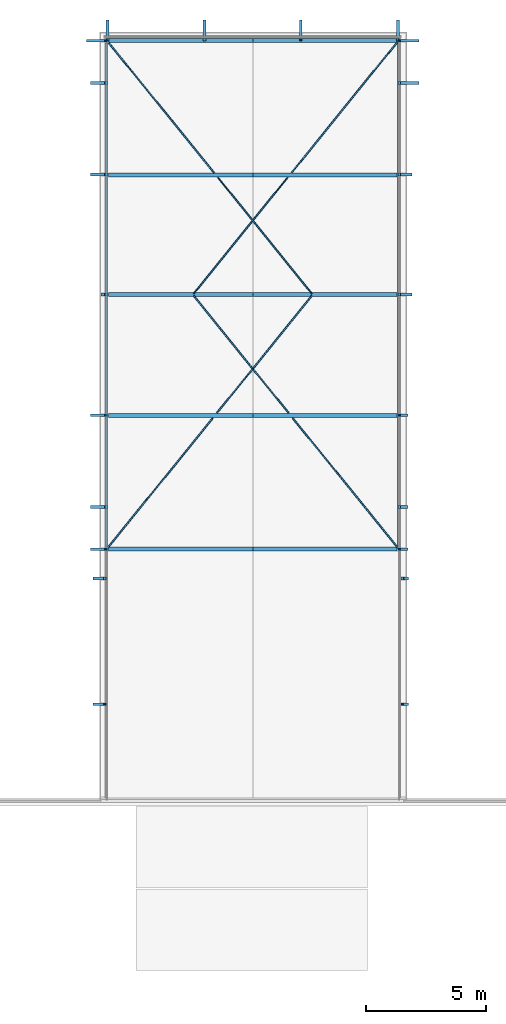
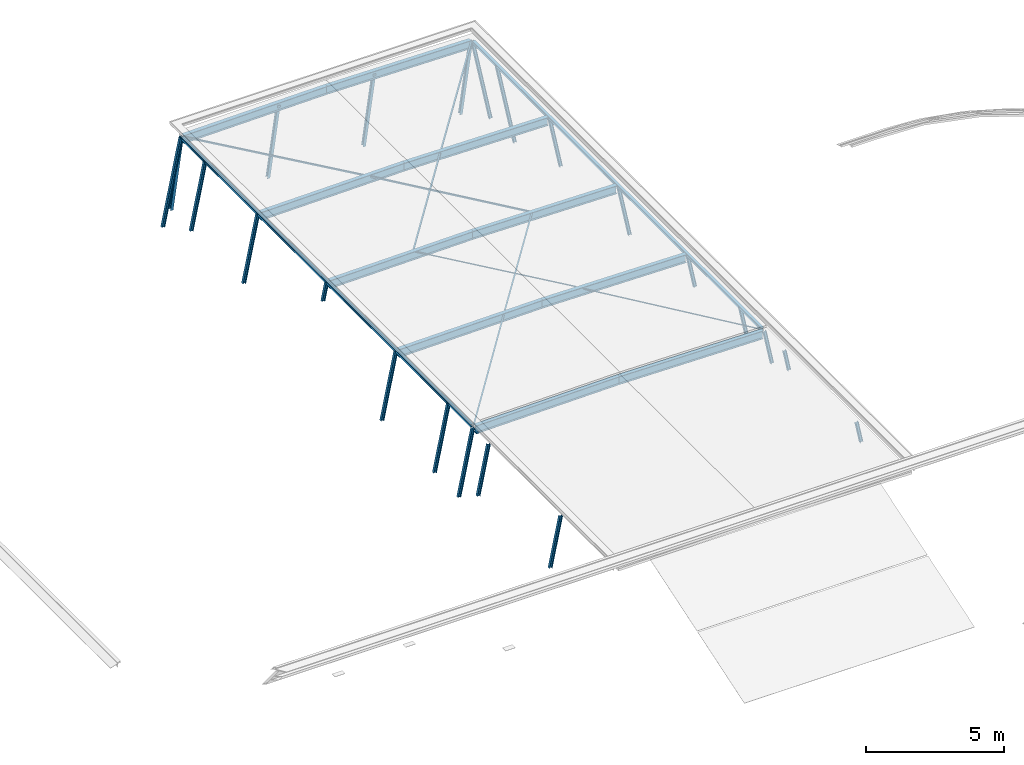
# One storey, part 1 of 5: 42 beams.
"""IFC2X3 building model written with IfcOpenShell, lengths in millimetres."""

from ifc_helpers import new_model, entity, si_unit, converted_unit, derived_unit, direction, frame, frame_2d, origin, place, context, subcontext, project, spatial, polyline, i_section, outline, extrude, material, type_object, element, save


model = new_model("IFC2X3")

# Units and contexts
model_context = context("Model", 3, precision=0.01, world=origin(), true_north=direction((6.12303176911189e-17, 1.0)))
body_context = subcontext(model_context, "Body", "Model", "MODEL_VIEW")
ifc_project = project(units=[si_unit("LENGTHUNIT", "METRE", prefix="MILLI"), si_unit("AREAUNIT", "SQUARE_METRE"), si_unit("VOLUMEUNIT", "CUBIC_METRE"), converted_unit("PLANEANGLEUNIT", "DEGREE", entity("IfcRatioMeasure", 0.0174532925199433), si_unit("PLANEANGLEUNIT", "RADIAN"), dimensions=[0, 0, 0, 0, 0, 0, 0]), si_unit("MASSUNIT", "GRAM", prefix="KILO"), derived_unit("MASSDENSITYUNIT", [(si_unit("MASSUNIT", "GRAM", prefix="KILO"), 1), (si_unit("LENGTHUNIT", "METRE"), -3)]), derived_unit("MOMENTOFINERTIAUNIT", [(si_unit("LENGTHUNIT", "METRE"), 4)]), si_unit("TIMEUNIT", "SECOND"), si_unit("FREQUENCYUNIT", "HERTZ"), si_unit("THERMODYNAMICTEMPERATUREUNIT", "DEGREE_CELSIUS"), derived_unit("THERMALTRANSMITTANCEUNIT", [(si_unit("MASSUNIT", "GRAM", prefix="KILO"), 1), (si_unit("THERMODYNAMICTEMPERATUREUNIT", "KELVIN"), -1), (si_unit("TIMEUNIT", "SECOND"), -3)]), derived_unit("VOLUMETRICFLOWRATEUNIT", [(si_unit("LENGTHUNIT", "METRE"), 3), (si_unit("TIMEUNIT", "SECOND"), -1)]), si_unit("ELECTRICCURRENTUNIT", "AMPERE"), si_unit("ELECTRICVOLTAGEUNIT", "VOLT"), si_unit("POWERUNIT", "WATT"), si_unit("FORCEUNIT", "NEWTON", prefix="KILO"), si_unit("ILLUMINANCEUNIT", "LUX"), si_unit("LUMINOUSFLUXUNIT", "LUMEN"), si_unit("LUMINOUSINTENSITYUNIT", "CANDELA"), derived_unit("USERDEFINED", [(si_unit("MASSUNIT", "GRAM", prefix="KILO"), -1), (si_unit("LENGTHUNIT", "METRE"), -2), (si_unit("TIMEUNIT", "SECOND"), 3), (si_unit("LUMINOUSFLUXUNIT", "LUMEN"), 1)]), derived_unit("LINEARVELOCITYUNIT", [(si_unit("LENGTHUNIT", "METRE"), 1), (si_unit("TIMEUNIT", "SECOND"), -1)]), si_unit("PRESSUREUNIT", "PASCAL"), derived_unit("USERDEFINED", [(si_unit("LENGTHUNIT", "METRE"), -2), (si_unit("MASSUNIT", "GRAM", prefix="KILO"), 1), (si_unit("TIMEUNIT", "SECOND"), -2)]), derived_unit("LINEARFORCEUNIT", [(si_unit("MASSUNIT", "GRAM", prefix="KILO"), 1), (si_unit("LENGTHUNIT", "METRE"), 1), (si_unit("TIMEUNIT", "SECOND"), -2), (si_unit("LENGTHUNIT", "METRE"), -1)]), derived_unit("PLANARFORCEUNIT", [(si_unit("MASSUNIT", "GRAM", prefix="KILO"), 1), (si_unit("LENGTHUNIT", "METRE"), 1), (si_unit("TIMEUNIT", "SECOND"), -2), (si_unit("LENGTHUNIT", "METRE"), -2)])], contexts=[model_context])

# Site, building, storey
site_placement = place(None, origin())
site = spatial("IfcSite", under=ifc_project, at=site_placement, Name="Default", CompositionType="ELEMENT")
building_placement = place(site_placement, origin())
building = spatial("IfcBuilding", under=site, at=building_placement, Name="-", CompositionType="ELEMENT")
storey_placement = place(building_placement, frame((0.0, 0.0, 6070.0)))
storey = spatial("IfcBuildingStorey", under=building, at=storey_placement, Name="02 tweede verdieping", CompositionType="ELEMENT", Elevation=6070.00000000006)

# Beams
ifc_material = material(Name="NLRS_h3_staal_verzinkt")
beam_type_1 = type_object("IfcBeamType", Name="NLRS_28_SF_UN_HE-profiel_gen_aly:HEA120", PredefinedType="NOTDEFINED")
beam_1_placement = place(storey_placement, frame((40857.0, 41867.5320880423, 2.52593752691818), z_axis=(0.0, 0.0, 1.0), x_axis=(0.0, -1.0, 0.0)))
element("IfcBeam", 1, at=beam_1_placement, inside=storey, type_object=beam_type_1, material=ifc_material, Name="NLRS_28_SF_UN_HE-profiel_gen_aly:HEA120", ObjectType="NLRS_28_SF_UN_HE-profiel_gen_aly:HEA120", context=body_context, shape_type="SweptSolid", body=[
    extrude(i_section(OverallWidth=120.000000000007, OverallDepth=120.0, WebThickness=4.99999999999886, FlangeThickness=8.00000000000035, at=frame_2d((5.43565192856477e-13, 4.33075797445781e-12), x_axis=(0.0, 1.0))), frame((-0.0611901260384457, 0.0, -60.0), z_axis=(1.0, 0.0, 0.0), x_axis=(0.0, 0.0, -1.0)), (0.0, 0.0, 1.0), 20934.7730277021),
])
beam_2_placement = place(storey_placement, frame((28706.9917876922, 41750.3377657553, -1.47406247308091), z_axis=(0.0, 0.0, 1.0), x_axis=(0.0, -1.0, 0.0)))
element("IfcBeam", 2, at=beam_2_placement, inside=storey, type_object=beam_type_1, material=ifc_material, Name="NLRS_28_SF_UN_HE-profiel_gen_aly:HEA120", ObjectType="NLRS_28_SF_UN_HE-profiel_gen_aly:HEA120", context=body_context, shape_type="SweptSolid", body=[
    extrude(i_section(OverallWidth=119.999999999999, OverallDepth=120.0, WebThickness=4.99999999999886, FlangeThickness=8.00000000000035, at=frame_2d((5.43565192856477e-13, 8.66151594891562e-12), x_axis=(0.0, 1.0))), frame((-116.534708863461, 0.0, -60.0), z_axis=(1.0, 0.0, 0.0), x_axis=(0.0, 0.0, -1.0)), (0.0, 0.0, 1.0), 20934.0522241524),
])
beam_3_placement = place(storey_placement, frame((41513.0668104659, 40211.8575638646, -2930.0), z_axis=(0.979607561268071, 0.0, 0.200920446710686), x_axis=(-0.200920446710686, 0.0, 0.979607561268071)))
element("IfcBeam", 3, at=beam_3_placement, inside=storey, type_object=beam_type_1, material=ifc_material, Name="NLRS_28_SF_UN_HE-profiel_gen_aly:HEA120", ObjectType="NLRS_28_SF_UN_HE-profiel_gen_aly:HEA120", context=body_context, shape_type="SweptSolid", body=[
    extrude(i_section(OverallWidth=119.999999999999, OverallDepth=119.999999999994, WebThickness=4.99999999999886, FlangeThickness=7.99999999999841, at=frame_2d((-4.43378667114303e-12, 4.33075797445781e-12), x_axis=(0.0, 1.0))), frame((-840.365064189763, 0.0, -60.0), z_axis=(1.0, 0.0, 0.0), x_axis=(0.0, 0.0, -1.0)), (0.0, 0.0, 1.0), 3757.85989885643),
])
beam_4_placement = place(storey_placement, frame((40821.9672262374, 42659.0888483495, -2930.0), z_axis=(1.0, 0.0, 0.0), x_axis=(0.0, -0.200920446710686, 0.979607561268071)))
element("IfcBeam", 4, at=beam_4_placement, inside=storey, type_object=beam_type_1, material=ifc_material, Name="NLRS_28_SF_UN_HE-profiel_gen_aly:HEA120", ObjectType="NLRS_28_SF_UN_HE-profiel_gen_aly:HEA120", context=body_context, shape_type="SweptSolid", body=[
    extrude(i_section(OverallWidth=119.999999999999, OverallDepth=119.999999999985, WebThickness=4.99999999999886, FlangeThickness=7.99999999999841, at=frame_2d((-4.33075797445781e-12, -8.84270434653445e-12), x_axis=(1.0, 0.0))), frame((-840.365064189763, 60.0, 0.0), z_axis=(1.0, 0.0, 0.0), x_axis=(0.0, 0.0, -1.0)), (0.0, 0.0, 1.0), 3757.85989885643),
])
beam_5_placement = place(storey_placement, frame((36777.0, 42659.0888483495, -2930.0), z_axis=(1.0, 0.0, 0.0), x_axis=(0.0, -0.200920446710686, 0.979607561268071)))
element("IfcBeam", 5, at=beam_5_placement, inside=storey, type_object=beam_type_1, material=ifc_material, Name="NLRS_28_SF_UN_HE-profiel_gen_aly:HEA120", ObjectType="NLRS_28_SF_UN_HE-profiel_gen_aly:HEA120", context=body_context, shape_type="SweptSolid", body=[
    extrude(i_section(OverallWidth=119.999999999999, OverallDepth=120.000000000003, WebThickness=4.99999999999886, FlangeThickness=7.99999999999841, at=frame_2d((-6.49436060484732e-12, -8.81428263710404e-12), x_axis=(1.0, 0.0))), frame((-840.365064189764, 60.0, 0.0), z_axis=(1.0, 0.0, 0.0), x_axis=(0.0, 0.0, -1.0)), (0.0, 0.0, 1.0), 3757.85989885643),
])
beam_6_placement = place(storey_placement, frame((32783.0, 42659.0888483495, -2930.0), z_axis=(1.0, 0.0, 0.0), x_axis=(0.0, -0.200920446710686, 0.979607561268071)))
element("IfcBeam", 6, at=beam_6_placement, inside=storey, type_object=beam_type_1, material=ifc_material, Name="NLRS_28_SF_UN_HE-profiel_gen_aly:HEA120", ObjectType="NLRS_28_SF_UN_HE-profiel_gen_aly:HEA120", context=body_context, shape_type="SweptSolid", body=[
    extrude(i_section(OverallWidth=119.999999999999, OverallDepth=120.000000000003, WebThickness=4.99999999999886, FlangeThickness=7.99999999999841, at=frame_2d((2.16715534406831e-12, 0.0), x_axis=(1.0, 0.0))), frame((-840.365064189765, 60.0, 0.0), z_axis=(1.0, 0.0, 0.0), x_axis=(0.0, 0.0, -1.0)), (0.0, 0.0, 1.0), 3757.85989885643),
])
beam_7_placement = place(storey_placement, frame((28738.0, 42659.0888483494, -2930.0), z_axis=(1.0, 0.0, 0.0), x_axis=(0.0, -0.200920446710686, 0.979607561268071)))
element("IfcBeam", 7, at=beam_7_placement, inside=storey, type_object=beam_type_1, material=ifc_material, Name="NLRS_28_SF_UN_HE-profiel_gen_aly:HEA120", ObjectType="NLRS_28_SF_UN_HE-profiel_gen_aly:HEA120", context=body_context, shape_type="SweptSolid", body=[
    extrude(i_section(OverallWidth=119.999999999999, OverallDepth=119.999999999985, WebThickness=4.99999999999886, FlangeThickness=7.99999999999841, at=frame_2d((2.16715534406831e-12, 2.48689957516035e-14), x_axis=(1.0, 0.0))), frame((-840.365064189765, 60.0, 0.0), z_axis=(1.0, 0.0, 0.0), x_axis=(0.0, 0.0, -1.0)), (0.0, 0.0, 1.0), 3757.85989885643),
])
beam_8_placement = place(storey_placement, frame((41513.0668104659, 41965.3202504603, -2930.0), z_axis=(0.979607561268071, 0.0, 0.200920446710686), x_axis=(-0.200920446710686, 0.0, 0.979607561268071)))
element("IfcBeam", 8, at=beam_8_placement, inside=storey, type_object=beam_type_1, material=ifc_material, Name="NLRS_28_SF_UN_HE-profiel_gen_aly:HEA120", ObjectType="NLRS_28_SF_UN_HE-profiel_gen_aly:HEA120", context=body_context, shape_type="SweptSolid", body=[
    extrude(i_section(OverallWidth=119.999999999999, OverallDepth=119.999999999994, WebThickness=4.99999999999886, FlangeThickness=7.99999999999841, at=frame_2d((-4.43378667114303e-12, -4.33075797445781e-12), x_axis=(0.0, 1.0))), frame((-840.365064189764, 0.0, -60.0), z_axis=(1.0, 0.0, 0.0), x_axis=(0.0, 0.0, -1.0)), (0.0, 0.0, 1.0), 3757.85989885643),
])
beam_9_placement = place(storey_placement, frame((28040.9197293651, 36404.8202504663, -2930.0), z_axis=(0.979607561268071, 0.0, -0.200920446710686), x_axis=(0.200920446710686, 0.0, 0.979607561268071)))
element("IfcBeam", 9, at=beam_9_placement, inside=storey, type_object=beam_type_1, material=ifc_material, Name="NLRS_28_SF_UN_HE-profiel_gen_aly:HEA120", ObjectType="NLRS_28_SF_UN_HE-profiel_gen_aly:HEA120", context=body_context, shape_type="SweptSolid", body=[
    extrude(outline(polyline([(52.0, -60.0), (60.0, -60.0), (60.0, 60.0), (52.0, 60.0), (52.0, 2.49999999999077), (-52.0, 2.49999999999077), (-52.0, 60.0), (-60.0, 60.0), (-60.0, -60.0), (-52.0, -60.0), (-52.0, -2.50000000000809), (52.0, -2.50000000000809), (52.0, -60.0)])), frame((0.0, 0.0, 60.0), z_axis=(1.0, 0.0, 0.0), x_axis=(0.0, 0.0, -1.0)), (0.0, 0.0, 1.0), 2917.49483466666),
])
beam_10_placement = place(storey_placement, frame((28040.9197293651, 40211.8575638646, -2930.0), z_axis=(0.979607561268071, 0.0, -0.200920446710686), x_axis=(0.200920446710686, 0.0, 0.979607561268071)))
element("IfcBeam", 10, at=beam_10_placement, inside=storey, type_object=beam_type_1, material=ifc_material, Name="NLRS_28_SF_UN_HE-profiel_gen_aly:HEA120", ObjectType="NLRS_28_SF_UN_HE-profiel_gen_aly:HEA120", context=body_context, shape_type="SweptSolid", body=[
    extrude(outline(polyline([(52.0, -60.0), (60.0, -60.0), (60.0, 60.0), (52.0, 60.0), (52.0, 2.49999999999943), (-52.0, 2.49999999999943), (-52.0, 60.0), (-60.0, 60.0), (-60.0, -60.0), (-52.0, -60.0), (-52.0, -2.49999999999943), (52.0, -2.49999999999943), (52.0, -60.0)])), frame((0.0, 0.0, 60.0), z_axis=(1.0, 0.0, 0.0), x_axis=(0.0, 0.0, -1.0)), (0.0, 0.0, 1.0), 2917.49483466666),
])
beam_11_placement = place(storey_placement, frame((28040.9197293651, 31414.8202504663, -2930.0), z_axis=(0.979607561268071, 0.0, -0.200920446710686), x_axis=(0.200920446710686, 0.0, 0.979607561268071)))
element("IfcBeam", 11, at=beam_11_placement, inside=storey, type_object=beam_type_1, material=ifc_material, Name="NLRS_28_SF_UN_HE-profiel_gen_aly:HEA120", ObjectType="NLRS_28_SF_UN_HE-profiel_gen_aly:HEA120", context=body_context, shape_type="SweptSolid", body=[
    extrude(outline(polyline([(52.0, -60.0), (60.0, -60.0), (60.0, 60.0), (52.0, 60.0), (52.0, 2.49999999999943), (-52.0, 2.49999999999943), (-52.0, 60.0), (-60.0, 60.0), (-60.0, -60.0), (-52.0, -60.0), (-52.0, -2.49999999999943), (52.0, -2.49999999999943), (52.0, -60.0)])), frame((2137.18038813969, 0.0, 60.0), z_axis=(1.0, 0.0, 0.0), x_axis=(0.0, 0.0, -1.0)), (0.0, 0.0, 1.0), 780.314446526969),
])
beam_12_placement = place(storey_placement, frame((28040.9197293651, 26406.8202504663, -2930.0), z_axis=(0.979607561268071, 0.0, -0.200920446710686), x_axis=(0.200920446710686, 0.0, 0.979607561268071)))
element("IfcBeam", 12, at=beam_12_placement, inside=storey, type_object=beam_type_1, material=ifc_material, Name="NLRS_28_SF_UN_HE-profiel_gen_aly:HEA120", ObjectType="NLRS_28_SF_UN_HE-profiel_gen_aly:HEA120", context=body_context, shape_type="SweptSolid", body=[
    extrude(outline(polyline([(52.0, -60.0), (60.0, -60.0), (60.0, 60.0), (52.0, 60.0), (52.0, 2.49999999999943), (-52.0, 2.49999999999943), (-52.0, 60.0), (-60.0, 60.0), (-60.0, -60.0), (-52.0, -60.0), (-52.0, -2.49999999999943), (52.0, -2.49999999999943), (52.0, -60.0)])), frame((0.0, 0.0, 60.0), z_axis=(1.0, 0.0, 0.0), x_axis=(0.0, 0.0, -1.0)), (0.0, 0.0, 1.0), 2917.49483466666),
])
beam_13_placement = place(storey_placement, frame((28040.919729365, 41965.3202504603, -2930.0), z_axis=(0.979607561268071, 0.0, -0.200920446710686), x_axis=(0.200920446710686, 0.0, 0.979607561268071)))
element("IfcBeam", 13, at=beam_13_placement, inside=storey, type_object=beam_type_1, material=ifc_material, Name="NLRS_28_SF_UN_HE-profiel_gen_aly:HEA120", ObjectType="NLRS_28_SF_UN_HE-profiel_gen_aly:HEA120", context=body_context, shape_type="SweptSolid", body=[
    extrude(outline(polyline([(52.0, -60.0), (60.0, -60.0), (60.0, 60.0), (52.0, 60.0), (52.0, 2.49999999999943), (-52.0, 2.49999999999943), (-52.0, 60.0), (-60.0, 60.0), (-60.0, -60.0), (-52.0, -60.0), (-52.0, -2.49999999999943), (52.0, -2.49999999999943), (52.0, -60.0)])), frame((-840.365064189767, 0.0, 60.0), z_axis=(1.0, 0.0, 0.0), x_axis=(0.0, 0.0, -1.0)), (0.0, 0.0, 1.0), 3757.85989885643),
])
for number, where, z_axis, x_axis in (
    (14, (41513.0668104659, 36404.8202504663, -2930.0), (0.979607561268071, 0.0, 0.200920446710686), (-0.200920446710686, 0.0, 0.979607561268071)),
    (15, (41513.0668104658, 31414.8202504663, -2930.0), (0.979607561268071, 0.0, 0.200920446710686), (-0.200920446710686, 0.0, 0.979607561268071)),
):
    element("IfcBeam", number, at=place(storey_placement, frame(where, z_axis=z_axis, x_axis=x_axis)), inside=storey, type_object=beam_type_1, material=ifc_material, Name="NLRS_28_SF_UN_HE-profiel_gen_aly:HEA120", ObjectType="NLRS_28_SF_UN_HE-profiel_gen_aly:HEA120", context=body_context, shape_type="SweptSolid", body=[
        extrude(i_section(OverallWidth=119.999999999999, OverallDepth=119.999999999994, WebThickness=4.99999999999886, FlangeThickness=8.00000000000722, at=frame_2d((4.40891767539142e-12, 0.0), x_axis=(0.0, 1.0))), frame((540.0, 0.0, -60.0), z_axis=(1.0, 0.0, 0.0), x_axis=(0.0, 0.0, -1.0)), (0.0, 0.0, 1.0), 2377.49483466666),
    ])
beam_14_placement = place(storey_placement, frame((41513.0668104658, 26406.8202504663, -2930.0), z_axis=(0.979607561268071, 0.0, 0.200920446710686), x_axis=(-0.200920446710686, 0.0, 0.979607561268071)))
element("IfcBeam", 16, at=beam_14_placement, inside=storey, type_object=beam_type_1, material=ifc_material, Name="NLRS_28_SF_UN_HE-profiel_gen_aly:HEA120", ObjectType="NLRS_28_SF_UN_HE-profiel_gen_aly:HEA120", context=body_context, shape_type="SweptSolid", body=[
    extrude(i_section(OverallWidth=119.999999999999, OverallDepth=119.999999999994, WebThickness=4.99999999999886, FlangeThickness=7.99999999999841, at=frame_2d((-4.40891767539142e-12, 0.0), x_axis=(0.0, 1.0))), frame((1350.0, 0.0, -60.0), z_axis=(1.0, 0.0, 0.0), x_axis=(0.0, 0.0, -1.0)), (0.0, 0.0, 1.0), 1567.49483466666),
])
beam_15_placement = place(storey_placement, frame((41513.0668104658, 22600.8202504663, -2930.0), z_axis=(0.979607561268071, 0.0, 0.200920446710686), x_axis=(-0.200920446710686, 0.0, 0.979607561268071)))
element("IfcBeam", 17, at=beam_15_placement, inside=storey, type_object=beam_type_1, material=ifc_material, Name="NLRS_28_SF_UN_HE-profiel_gen_aly:HEA120", ObjectType="NLRS_28_SF_UN_HE-profiel_gen_aly:HEA120", context=body_context, shape_type="SweptSolid", body=[
    extrude(i_section(OverallWidth=119.999999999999, OverallDepth=119.999999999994, WebThickness=4.99999999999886, FlangeThickness=7.99999999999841, at=frame_2d((4.40891767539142e-12, 0.0), x_axis=(0.0, 1.0))), frame((1350.0, 0.0, -60.0), z_axis=(1.0, 0.0, 0.0), x_axis=(0.0, 0.0, -1.0)), (0.0, 0.0, 1.0), 1567.49483466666),
])
beam_16_placement = place(storey_placement, frame((41513.0668104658, 20836.3202504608, -2930.0), z_axis=(0.979607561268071, 0.0, 0.200920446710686), x_axis=(-0.200920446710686, 0.0, 0.979607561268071)))
element("IfcBeam", 18, at=beam_16_placement, inside=storey, type_object=beam_type_1, material=ifc_material, Name="NLRS_28_SF_UN_HE-profiel_gen_aly:HEA120", ObjectType="NLRS_28_SF_UN_HE-profiel_gen_aly:HEA120", context=body_context, shape_type="SweptSolid", body=[
    extrude(i_section(OverallWidth=119.999999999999, OverallDepth=119.999999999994, WebThickness=4.99999999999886, FlangeThickness=7.99999999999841, at=frame_2d((4.40891767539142e-12, -4.33075797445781e-12), x_axis=(0.0, 1.0))), frame((1350.0, 0.0, -60.0), z_axis=(1.0, 0.0, 0.0), x_axis=(0.0, 0.0, -1.0)), (0.0, 0.0, 1.0), 1567.49483466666),
])
for number, where, z_axis, x_axis in (
    (19, (28040.9197293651, 22600.8202504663, -2930.0), (0.979607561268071, 0.0, -0.200920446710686), (0.200920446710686, 0.0, 0.979607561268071)),
    (20, (28040.9197293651, 20836.3202504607, -2930.0), (0.979607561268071, 0.0, -0.200920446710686), (0.200920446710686, 0.0, 0.979607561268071)),
):
    element("IfcBeam", number, at=place(storey_placement, frame(where, z_axis=z_axis, x_axis=x_axis)), inside=storey, type_object=beam_type_1, material=ifc_material, Name="NLRS_28_SF_UN_HE-profiel_gen_aly:HEA120", ObjectType="NLRS_28_SF_UN_HE-profiel_gen_aly:HEA120", context=body_context, shape_type="SweptSolid", body=[
        extrude(outline(polyline([(52.0, -60.0), (60.0, -60.0), (60.0, 60.0), (52.0, 60.0), (52.0, 2.4999999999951), (-52.0, 2.4999999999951), (-52.0, 60.0), (-60.0, 60.0), (-60.0, -60.0), (-52.0, -60.0), (-52.0, -2.50000000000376), (52.0, -2.50000000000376), (52.0, -60.0)])), frame((0.0, 0.0, 60.0), z_axis=(1.0, 0.0, 0.0), x_axis=(0.0, 0.0, -1.0)), (0.0, 0.0, 1.0), 2917.49483466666),
    ])
beam_17_placement = place(storey_placement, frame((27987.6021018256, 19616.3202504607, -2915.71358475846), z_axis=(0.979607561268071, 0.0, -0.200920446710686), x_axis=(0.200920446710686, 0.0, 0.979607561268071)))
element("IfcBeam", 21, at=beam_17_placement, inside=storey, type_object=beam_type_1, material=ifc_material, Name="NLRS_28_SF_UN_HE-profiel_gen_aly:HEA120", ObjectType="NLRS_28_SF_UN_HE-profiel_gen_aly:HEA120", context=body_context, shape_type="SweptSolid", body=[
    extrude(outline(polyline([(52.0, -60.0), (60.0, -60.0), (60.0, 60.0), (52.0, 60.0), (52.0, 2.4999999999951), (-52.0, 2.4999999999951), (-52.0, 60.0), (-60.0, 60.0), (-60.0, -60.0), (-52.0, -60.0), (-52.0, -2.50000000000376), (52.0, -2.50000000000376), (52.0, -60.0)])), frame((756.872649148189, 0.0, 60.0), z_axis=(1.0, 0.0, 0.0), x_axis=(0.0, 0.0, -1.0)), (0.0, 0.0, 1.0), 2179.66402043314),
])
beam_18_placement = place(storey_placement, frame((27987.6021018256, 14396.3202504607, -2915.71358475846), z_axis=(0.979607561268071, 0.0, -0.200920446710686), x_axis=(0.200920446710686, 0.0, 0.979607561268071)))
element("IfcBeam", 22, at=beam_18_placement, inside=storey, type_object=beam_type_1, material=ifc_material, Name="NLRS_28_SF_UN_HE-profiel_gen_aly:HEA120", ObjectType="NLRS_28_SF_UN_HE-profiel_gen_aly:HEA120", context=body_context, shape_type="SweptSolid", body=[
    extrude(outline(polyline([(52.0, -60.0), (60.0, -60.0), (60.0, 60.0), (52.0, 60.0), (52.0, 2.49999999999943), (-52.0, 2.49999999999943), (-52.0, 60.0), (-60.0, 60.0), (-60.0, -60.0), (-52.0, -60.0), (-52.0, -2.5000000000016), (52.0, -2.5000000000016), (52.0, -60.0)])), frame((750.866748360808, 0.0, 60.0), z_axis=(1.0, 0.0, 0.0), x_axis=(0.0, 0.0, -1.0)), (0.0, 0.0, 1.0), 2193.0932659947),
])
beam_19_placement = place(storey_placement, frame((41607.0206951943, 19616.3202504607, -2915.71358475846), z_axis=(0.979607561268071, 0.0, 0.200920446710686), x_axis=(-0.200920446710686, 0.0, 0.979607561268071)))
element("IfcBeam", 23, at=beam_19_placement, inside=storey, type_object=beam_type_1, material=ifc_material, Name="NLRS_28_SF_UN_HE-profiel_gen_aly:HEA120", ObjectType="NLRS_28_SF_UN_HE-profiel_gen_aly:HEA120", context=body_context, shape_type="SweptSolid", body=[
    extrude(i_section(OverallWidth=119.999999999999, OverallDepth=119.999999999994, WebThickness=4.99999999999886, FlangeThickness=7.99999999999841, at=frame_2d((4.35562697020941e-12, -4.33075797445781e-12), x_axis=(0.0, 1.0))), frame((1791.58714964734, 0.0, -60.0), z_axis=(1.0, 0.0, 0.0), x_axis=(0.0, 0.0, -1.0)), (0.0, 0.0, 1.0), 953.802495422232),
])
beam_20_placement = place(storey_placement, frame((41607.0494139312, 14396.3202504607, -2915.71358475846), z_axis=(0.979607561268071, 0.0, 0.200920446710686), x_axis=(-0.200920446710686, 0.0, 0.979607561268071)))
element("IfcBeam", 24, at=beam_20_placement, inside=storey, type_object=beam_type_1, material=ifc_material, Name="NLRS_28_SF_UN_HE-profiel_gen_aly:HEA120", ObjectType="NLRS_28_SF_UN_HE-profiel_gen_aly:HEA120", context=body_context, shape_type="SweptSolid", body=[
    extrude(i_section(OverallWidth=120.000000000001, OverallDepth=119.999999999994, WebThickness=5.00000000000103, FlangeThickness=7.99999999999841, at=frame_2d((4.40891767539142e-12, -1.08357767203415e-12), x_axis=(0.0, 1.0))), frame((1772.68114464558, 0.0, -60.0), z_axis=(1.0, 0.0, 0.0), x_axis=(0.0, 0.0, -1.0)), (0.0, 0.0, 1.0), 980.131845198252),
])
beam_type_2 = type_object("IfcBeamType", Name="NLRS_28_SF_UN_IPE-profielen_gen_aly:IPE360", PredefinedType="NOTDEFINED")
beam_21_placement = place(storey_placement, frame((40783.0668104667, 20840.3202504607, 4.60000000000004), z_axis=(0.0138961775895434, 0.0, 0.999903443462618), x_axis=(-0.999903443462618, 0.0, 0.0138961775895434)))
element("IfcBeam", 25, at=beam_21_placement, inside=storey, type_object=beam_type_2, material=ifc_material, Name="NLRS_28_SF_UN_IPE-profielen_gen_aly:IPE360", ObjectType="NLRS_28_SF_UN_IPE-profielen_gen_aly:IPE360", context=body_context, shape_type="SweptSolid", body=[
    extrude(i_section(OverallWidth=170.0, OverallDepth=360.0, WebThickness=8.00000000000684, FlangeThickness=12.7000000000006, at=frame_2d((1.08002495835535e-12, -4.33431068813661e-12), x_axis=(0.0, 1.0))), frame((0.0, 0.0, -180.0), z_axis=(1.0, 0.0, 0.0), x_axis=(0.0, 0.0, -1.0)), (0.0, 0.0, 1.0), 6001.65041520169),
])
beam_22_placement = place(storey_placement, frame((28780.7333447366, 20840.3202504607, 4.61748683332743), z_axis=(-0.013892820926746, 0.0, 0.999903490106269), x_axis=(0.999903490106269, 0.0, 0.013892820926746)))
element("IfcBeam", 26, at=beam_22_placement, inside=storey, type_object=beam_type_2, material=ifc_material, Name="NLRS_28_SF_UN_IPE-profielen_gen_aly:IPE360", ObjectType="NLRS_28_SF_UN_IPE-profielen_gen_aly:IPE360", context=body_context, shape_type="SweptSolid", body=[
    extrude(i_section(OverallWidth=170.0, OverallDepth=360.0, WebThickness=8.00000000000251, FlangeThickness=12.7000000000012, at=frame_2d((-1.63424829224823e-12, -2.16715534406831e-12), x_axis=(0.0, 1.0))), frame((0.0, 0.0, -180.0), z_axis=(1.0, 0.0, 0.0), x_axis=(0.0, 0.0, -1.0)), (0.0, 0.0, 1.0), 6001.84178622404),
])
beam_23_placement = place(storey_placement, frame((40783.0668104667, 26398.8202504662, 4.60000000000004), z_axis=(0.0138961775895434, 0.0, 0.999903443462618), x_axis=(-0.999903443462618, 0.0, 0.0138961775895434)))
element("IfcBeam", 27, at=beam_23_placement, inside=storey, type_object=beam_type_2, material=ifc_material, Name="NLRS_28_SF_UN_IPE-profielen_gen_aly:IPE360", ObjectType="NLRS_28_SF_UN_IPE-profielen_gen_aly:IPE360", context=body_context, shape_type="SweptSolid", body=[
    extrude(i_section(OverallWidth=170.0, OverallDepth=360.0, WebThickness=8.00000000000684, FlangeThickness=12.7000000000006, at=frame_2d((1.08002495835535e-12, -4.33431068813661e-12), x_axis=(0.0, 1.0))), frame((0.0, 0.0, -180.0), z_axis=(1.0, 0.0, 0.0), x_axis=(0.0, 0.0, -1.0)), (0.0, 0.0, 1.0), 6001.65041520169),
])
beam_24_placement = place(storey_placement, frame((28780.7333447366, 26398.8202504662, 4.61748683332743), z_axis=(-0.013892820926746, 0.0, 0.999903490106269), x_axis=(0.999903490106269, 0.0, 0.013892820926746)))
element("IfcBeam", 28, at=beam_24_placement, inside=storey, type_object=beam_type_2, material=ifc_material, Name="NLRS_28_SF_UN_IPE-profielen_gen_aly:IPE360", ObjectType="NLRS_28_SF_UN_IPE-profielen_gen_aly:IPE360", context=body_context, shape_type="SweptSolid", body=[
    extrude(i_section(OverallWidth=170.0, OverallDepth=360.0, WebThickness=8.00000000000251, FlangeThickness=12.7000000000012, at=frame_2d((-1.63424829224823e-12, 2.16715534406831e-12), x_axis=(0.0, 1.0))), frame((0.0, 0.0, -180.0), z_axis=(1.0, 0.0, 0.0), x_axis=(0.0, 0.0, -1.0)), (0.0, 0.0, 1.0), 6001.84178622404),
])
beam_25_placement = place(storey_placement, frame((40783.0668104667, 31414.8202504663, 4.60000000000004), z_axis=(0.0138961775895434, 0.0, 0.999903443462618), x_axis=(-0.999903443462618, 0.0, 0.0138961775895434)))
element("IfcBeam", 29, at=beam_25_placement, inside=storey, type_object=beam_type_2, material=ifc_material, Name="NLRS_28_SF_UN_IPE-profielen_gen_aly:IPE360", ObjectType="NLRS_28_SF_UN_IPE-profielen_gen_aly:IPE360", context=body_context, shape_type="SweptSolid", body=[
    extrude(i_section(OverallWidth=169.999999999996, OverallDepth=360.0, WebThickness=8.0000000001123, FlangeThickness=12.7000000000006, at=frame_2d((1.09423581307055e-12, 2.16715534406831e-12), x_axis=(0.0, 1.0))), frame((0.0, 0.0, -180.0), z_axis=(1.0, 0.0, 0.0), x_axis=(0.0, 0.0, -1.0)), (0.0, 0.0, 1.0), 6001.65041520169),
])
beam_26_placement = place(storey_placement, frame((28780.7333447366, 31414.8202504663, 4.61748683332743), z_axis=(-0.013892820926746, 0.0, 0.999903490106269), x_axis=(0.999903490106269, 0.0, 0.013892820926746)))
element("IfcBeam", 30, at=beam_26_placement, inside=storey, type_object=beam_type_2, material=ifc_material, Name="NLRS_28_SF_UN_IPE-profielen_gen_aly:IPE360", ObjectType="NLRS_28_SF_UN_IPE-profielen_gen_aly:IPE360", context=body_context, shape_type="SweptSolid", body=[
    extrude(i_section(OverallWidth=170.0, OverallDepth=360.0, WebThickness=8.00000000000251, FlangeThickness=12.7000000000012, at=frame_2d((-1.63424829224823e-12, -6.49436060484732e-12), x_axis=(0.0, 1.0))), frame((0.0, 0.0, -180.0), z_axis=(1.0, 0.0, 0.0), x_axis=(0.0, 0.0, -1.0)), (0.0, 0.0, 1.0), 6001.84178622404),
])
beam_27_placement = place(storey_placement, frame((40783.0668104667, 36386.8202504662, 4.60000000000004), z_axis=(0.0138961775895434, 0.0, 0.999903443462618), x_axis=(-0.999903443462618, 0.0, 0.0138961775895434)))
element("IfcBeam", 31, at=beam_27_placement, inside=storey, type_object=beam_type_2, material=ifc_material, Name="NLRS_28_SF_UN_IPE-profielen_gen_aly:IPE360", ObjectType="NLRS_28_SF_UN_IPE-profielen_gen_aly:IPE360", context=body_context, shape_type="SweptSolid", body=[
    extrude(i_section(OverallWidth=170.0, OverallDepth=360.0, WebThickness=8.00000000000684, FlangeThickness=12.7000000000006, at=frame_2d((1.08002495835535e-12, 0.0), x_axis=(0.0, 1.0))), frame((0.0, 0.0, -180.0), z_axis=(1.0, 0.0, 0.0), x_axis=(0.0, 0.0, -1.0)), (0.0, 0.0, 1.0), 6001.65041520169),
])
beam_28_placement = place(storey_placement, frame((28780.7333447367, 36386.8202504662, 4.61748683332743), z_axis=(-0.013892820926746, 0.0, 0.999903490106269), x_axis=(0.999903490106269, 0.0, 0.013892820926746)))
element("IfcBeam", 32, at=beam_28_placement, inside=storey, type_object=beam_type_2, material=ifc_material, Name="NLRS_28_SF_UN_IPE-profielen_gen_aly:IPE360", ObjectType="NLRS_28_SF_UN_IPE-profielen_gen_aly:IPE360", context=body_context, shape_type="SweptSolid", body=[
    extrude(i_section(OverallWidth=170.0, OverallDepth=360.0, WebThickness=8.00000000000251, FlangeThickness=12.7000000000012, at=frame_2d((-1.63424829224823e-12, 6.49436060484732e-12), x_axis=(0.0, 1.0))), frame((0.0, 0.0, -180.0), z_axis=(1.0, 0.0, 0.0), x_axis=(0.0, 0.0, -1.0)), (0.0, 0.0, 1.0), 6001.84178622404),
])
beam_29_placement = place(storey_placement, frame((40783.0668104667, 41982.8202504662, 4.60000000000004), z_axis=(0.0138961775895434, 0.0, 0.999903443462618), x_axis=(-0.999903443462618, 0.0, 0.0138961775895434)))
element("IfcBeam", 33, at=beam_29_placement, inside=storey, type_object=beam_type_2, material=ifc_material, Name="NLRS_28_SF_UN_IPE-profielen_gen_aly:IPE360", ObjectType="NLRS_28_SF_UN_IPE-profielen_gen_aly:IPE360", context=body_context, shape_type="SweptSolid", body=[
    extrude(i_section(OverallWidth=170.000000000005, OverallDepth=360.0, WebThickness=7.99999999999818, FlangeThickness=12.7000000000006, at=frame_2d((1.08002495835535e-12, -1.73301373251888e-11), x_axis=(0.0, 1.0))), frame((0.0, 0.0, -180.0), z_axis=(1.0, 0.0, 0.0), x_axis=(0.0, 0.0, -1.0)), (0.0, 0.0, 1.0), 6001.65041520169),
])
beam_30_placement = place(storey_placement, frame((28780.7333447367, 41982.8202504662, 4.61748683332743), z_axis=(-0.013892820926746, 0.0, 0.999903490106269), x_axis=(0.999903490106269, 0.0, 0.013892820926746)))
element("IfcBeam", 34, at=beam_30_placement, inside=storey, type_object=beam_type_2, material=ifc_material, Name="NLRS_28_SF_UN_IPE-profielen_gen_aly:IPE360", ObjectType="NLRS_28_SF_UN_IPE-profielen_gen_aly:IPE360", context=body_context, shape_type="SweptSolid", body=[
    extrude(i_section(OverallWidth=169.999999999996, OverallDepth=360.0, WebThickness=7.99999999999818, FlangeThickness=12.7000000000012, at=frame_2d((-1.63424829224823e-12, 1.73301373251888e-11), x_axis=(0.0, 1.0))), frame((0.0, 0.0, -180.0), z_axis=(1.0, 0.0, 0.0), x_axis=(0.0, 0.0, -1.0)), (0.0, 0.0, 1.0), 6001.84178622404),
])
beam_type_3 = type_object("IfcBeamType", Name="NLRS_28_SF_UN_hoeklijnen_gen_aly:L60/6", PredefinedType="NOTDEFINED")
beam_31_placement = place(storey_placement, frame((28732.0, 41943.8202504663, -20.0), z_axis=(-0.00572893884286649, 0.00707465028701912, 0.999958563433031), x_axis=(0.629294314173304, -0.777113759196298, 0.00910337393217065)))
element("IfcBeam", 35, at=beam_31_placement, inside=storey, type_object=beam_type_3, material=ifc_material, Name="NLRS_28_SF_UN_hoeklijnen_gen_aly:L60/6", ObjectType="NLRS_28_SF_UN_hoeklijnen_gen_aly:L60/6", context=body_context, shape_type="SweptSolid", body=[
    extrude(outline(polyline([(-22.0, -22.0), (38.0, -22.0), (38.0, -16.0), (-16.0, -16.0), (-16.0, 38.0), (-22.0, 38.0), (-22.0, -22.0)])), frame((0.0, 4.29999999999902, -22.0), z_axis=(1.0, 0.0, 0.0), x_axis=(0.0, 0.0, -1.0)), (0.0, 0.0, 1.0), 7041.69309797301),
])
beam_32_placement = place(storey_placement, frame((28732.0, 20885.8202504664, -20.0), z_axis=(-0.00577340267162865, -0.00712955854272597, 0.99995791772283), x_axis=(0.629293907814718, 0.777113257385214, 0.00917402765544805)))
element("IfcBeam", 36, at=beam_32_placement, inside=storey, type_object=beam_type_3, material=ifc_material, Name="NLRS_28_SF_UN_hoeklijnen_gen_aly:L60/6", ObjectType="NLRS_28_SF_UN_hoeklijnen_gen_aly:L60/6", context=body_context, shape_type="SweptSolid", body=[
    extrude(outline(polyline([(-22.0, -38.0), (-16.0, -38.0), (-16.0, 16.0), (38.0, 16.0), (38.0, 22.0), (-22.0, 22.0), (-22.0, -38.0)])), frame((0.0, -4.29999999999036, -22.0), z_axis=(1.0, 0.0, 0.0), x_axis=(0.0, 0.0, -1.0)), (0.0, 0.0, 1.0), 6950.81547774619),
])
beam_33_placement = place(storey_placement, frame((40831.6388247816, 41943.8202504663, -20.0), z_axis=(0.00571293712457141, 0.00705488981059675, 0.999958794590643), x_axis=(-0.629294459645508, -0.777113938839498, 0.00907794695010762)))
element("IfcBeam", 37, at=beam_33_placement, inside=storey, type_object=beam_type_3, material=ifc_material, Name="NLRS_28_SF_UN_hoeklijnen_gen_aly:L60/6", ObjectType="NLRS_28_SF_UN_hoeklijnen_gen_aly:L60/6", context=body_context, shape_type="SweptSolid", body=[
    extrude(outline(polyline([(-22.0, -38.0), (-16.0, -38.0), (-16.0, 16.0), (38.0, 16.0), (38.0, 22.0), (-22.0, 22.0), (-22.0, -38.0)])), frame((0.0, -4.30000000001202, -22.0), z_axis=(1.0, 0.0, 0.0), x_axis=(0.0, 0.0, -1.0)), (0.0, 0.0, 1.0), 7025.27527608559),
])
beam_34_placement = place(storey_placement, frame((40831.6388247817, 20885.8202504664, -20.0), z_axis=(0.0057612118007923, -0.00711450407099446, 0.999958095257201), x_axis=(-0.62929401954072, 0.777113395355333, 0.00915465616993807)))
element("IfcBeam", 38, at=beam_34_placement, inside=storey, type_object=beam_type_3, material=ifc_material, Name="NLRS_28_SF_UN_hoeklijnen_gen_aly:L60/6", ObjectType="NLRS_28_SF_UN_hoeklijnen_gen_aly:L60/6", context=body_context, shape_type="SweptSolid", body=[
    extrude(outline(polyline([(-22.0, -22.0), (38.0, -22.0), (38.0, -16.0), (-16.0, -16.0), (-16.0, 38.0), (-22.0, 38.0), (-22.0, -22.0)])), frame((0.0, 4.30000000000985, -22.0), z_axis=(1.0, 0.0, 0.0), x_axis=(0.0, 0.0, -1.0)), (0.0, 0.0, 1.0), 6960.22854930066),
])
beam_35_placement = place(storey_placement, frame((33243.1962249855, 36372.9568596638, 45.0), z_axis=(0.0, 0.0, 1.0), x_axis=(0.629320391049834, -0.777145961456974, 0.0)))
element("IfcBeam", 39, at=beam_35_placement, inside=storey, type_object=beam_type_3, material=ifc_material, Name="NLRS_28_SF_UN_hoeklijnen_gen_aly:L60/6", ObjectType="NLRS_28_SF_UN_hoeklijnen_gen_aly:L60/6", context=body_context, shape_type="SweptSolid", body=[
    extrude(outline(polyline([(-22.0, -22.0), (38.0, -22.0), (38.0, -16.0), (-16.0, -16.0), (-16.0, 38.0), (-22.0, 38.0), (-22.0, -22.0)])), frame((125.789576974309, 4.29999999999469, -22.0), z_axis=(1.0, 0.0, 0.0), x_axis=(0.0, 0.0, -1.0)), (0.0, 0.0, 1.0), 6202.31422988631),
])
beam_36_placement = place(storey_placement, frame((36317.2959386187, 36369.0710567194, 45.0), z_axis=(0.0, 0.0, 1.0), x_axis=(-0.629320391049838, -0.77714596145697, 0.0)))
element("IfcBeam", 40, at=beam_36_placement, inside=storey, type_object=beam_type_3, material=ifc_material, Name="NLRS_28_SF_UN_hoeklijnen_gen_aly:L60/6", ObjectType="NLRS_28_SF_UN_hoeklijnen_gen_aly:L60/6", context=body_context, shape_type="SweptSolid", body=[
    extrude(outline(polyline([(-22.0, -38.0), (-16.0, -38.0), (-16.0, 16.0), (38.0, 16.0), (38.0, 22.0), (-22.0, 22.0), (-22.0, -38.0)])), frame((120.789482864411, -4.29999999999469, -22.0), z_axis=(1.0, 0.0, 0.0), x_axis=(0.0, 0.0, -1.0)), (0.0, 0.0, 1.0), 6202.31422988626),
])
beam_37_placement = place(storey_placement, frame((36367.2994497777, 26398.8202504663, 65.9682129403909), z_axis=(-0.00204444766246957, 0.00252468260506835, 0.999994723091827), x_axis=(-0.629317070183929, 0.77714186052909, -0.00324865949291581)))
element("IfcBeam", 41, at=beam_37_placement, inside=storey, type_object=beam_type_3, material=ifc_material, Name="NLRS_28_SF_UN_hoeklijnen_gen_aly:L60/6", ObjectType="NLRS_28_SF_UN_hoeklijnen_gen_aly:L60/6", context=body_context, shape_type="SweptSolid", body=[
    extrude(outline(polyline([(-22.0, -22.0), (38.0, -22.0), (38.0, -16.0), (-16.0, -16.0), (-16.0, 38.0), (-22.0, 38.0), (-22.0, -22.0)])), frame((143.824106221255, 4.30000000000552, -22.0), z_axis=(1.0, 0.0, 0.0), x_axis=(0.0, 0.0, -1.0)), (0.0, 0.0, 1.0), 6258.77023811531),
])
beam_38_placement = place(storey_placement, frame((33196.3393750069, 26398.8202504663, 65.9686316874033), z_axis=(0.002044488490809, 0.00252473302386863, 0.999994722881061), x_axis=(0.629317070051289, 0.777141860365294, -0.00324872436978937)))
element("IfcBeam", 42, at=beam_38_placement, inside=storey, type_object=beam_type_3, material=ifc_material, Name="NLRS_28_SF_UN_hoeklijnen_gen_aly:L60/6", ObjectType="NLRS_28_SF_UN_hoeklijnen_gen_aly:L60/6", context=body_context, shape_type="SweptSolid", body=[
    extrude(outline(polyline([(-22.0, -38.0), (-16.0, -38.0), (-16.0, 16.0), (38.0, 16.0), (38.0, 22.0), (-22.0, 22.0), (-22.0, -38.0)])), frame((143.824110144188, -4.29999999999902, -22.0), z_axis=(1.0, 0.0, 0.0), x_axis=(0.0, 0.0, -1.0)), (0.0, 0.0, 1.0), 6258.77023556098),
])

save(model, "model.ifc")
